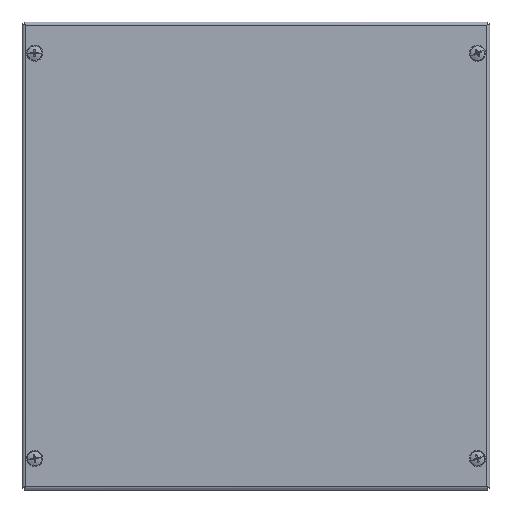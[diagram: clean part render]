
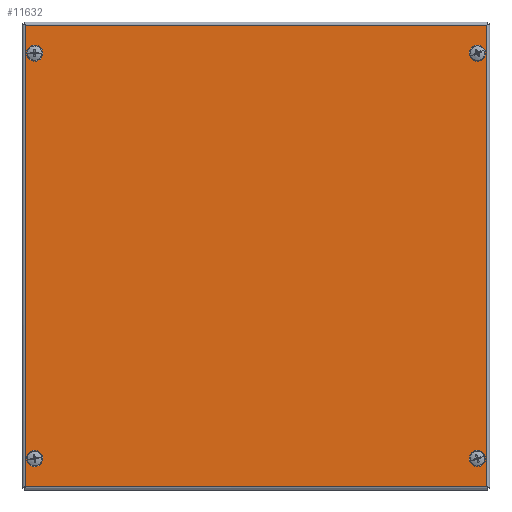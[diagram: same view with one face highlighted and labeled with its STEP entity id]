
A CAD part, top view. The second image highlights one B-rep face of the part: STEP entity #11632.
In plain terms, the highlighted planar face has unit normal (0, 0, 1) as drawn and (0, 0, -1) by its records, which use the part's own axes.
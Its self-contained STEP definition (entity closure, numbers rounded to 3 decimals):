
#152 = ORIENTED_EDGE ( 'NONE', *, *, #803, .T. ) ;
#228 = AXIS2_PLACEMENT_3D ( 'NONE', #5968, #1004, #15415 ) ;
#483 = AXIS2_PLACEMENT_3D ( 'NONE', #8965, #6503, #3982 ) ;
#488 = EDGE_CURVE ( 'NONE', #4682, #8380, #3976, .T. ) ;
#697 = EDGE_CURVE ( 'NONE', #9607, #5213, #14136, .T. ) ;
#725 = CARTESIAN_POINT ( 'NONE',  ( -142., 130., -1.2 ) ) ;
#729 = DIRECTION ( 'NONE',  ( -1., 0., 0. ) ) ;
#764 = ORIENTED_EDGE ( 'NONE', *, *, #5546, .T. ) ;
#803 = EDGE_CURVE ( 'NONE', #5291, #8223, #13394, .T. ) ;
#966 = EDGE_CURVE ( 'NONE', #10117, #7244, #14687, .T. ) ;
#1004 = DIRECTION ( 'NONE',  ( 0., 0., 1. ) ) ;
#1183 = CIRCLE ( 'NONE', #1243, 4. ) ;
#1243 = AXIS2_PLACEMENT_3D ( 'NONE', #7017, #10633, #6901 ) ;
#1373 = CARTESIAN_POINT ( 'NONE',  ( -148.093, 148.063, -1.2 ) ) ;
#1526 = EDGE_LOOP ( 'NONE', ( #8001, #4093 ) ) ;
#1650 = CIRCLE ( 'NONE', #7947, 4. ) ;
#1816 = ORIENTED_EDGE ( 'NONE', *, *, #4756, .T. ) ;
#1873 = CIRCLE ( 'NONE', #2470, 4. ) ;
#2023 = CARTESIAN_POINT ( 'NONE',  ( 148.063, 148.063, -1.2 ) ) ;
#2417 = CARTESIAN_POINT ( 'NONE',  ( -148.063, -148.063, -1.2 ) ) ;
#2432 = EDGE_CURVE ( 'NONE', #8380, #4682, #11846, .T. ) ;
#2460 = VECTOR ( 'NONE', #729, 1000. ) ;
#2466 = ORIENTED_EDGE ( 'NONE', *, *, #966, .T. ) ;
#2470 = AXIS2_PLACEMENT_3D ( 'NONE', #7672, #14845, #4027 ) ;
#2498 = CARTESIAN_POINT ( 'NONE',  ( -146., 130., -1.2 ) ) ;
#2665 = ORIENTED_EDGE ( 'NONE', *, *, #6793, .T. ) ;
#2731 = AXIS2_PLACEMENT_3D ( 'NONE', #8596, #8897, #12356 ) ;
#2866 = VERTEX_POINT ( 'NONE', #5698 ) ;
#2890 = EDGE_CURVE ( 'NONE', #7796, #2866, #1650, .T. ) ;
#2999 = DIRECTION ( 'NONE',  ( 0., -1., 0. ) ) ;
#3346 = VERTEX_POINT ( 'NONE', #12695 ) ;
#3371 = DIRECTION ( 'NONE',  ( 0., 1., 0. ) ) ;
#3403 = LINE ( 'NONE', #5680, #7926 ) ;
#3439 = PLANE ( 'NONE',  #2731 ) ;
#3976 = CIRCLE ( 'NONE', #9125, 4. ) ;
#3982 = DIRECTION ( 'NONE',  ( 1., 0., 0. ) ) ;
#4027 = DIRECTION ( 'NONE',  ( 1., 0., 0. ) ) ;
#4093 = ORIENTED_EDGE ( 'NONE', *, *, #488, .T. ) ;
#4409 = DIRECTION ( 'NONE',  ( 1., 0., 0. ) ) ;
#4490 = ORIENTED_EDGE ( 'NONE', *, *, #5162, .T. ) ;
#4682 = VERTEX_POINT ( 'NONE', #9277 ) ;
#4756 = EDGE_CURVE ( 'NONE', #3346, #7249, #13389, .T. ) ;
#4881 = DIRECTION ( 'NONE',  ( 1., 0., 0. ) ) ;
#4917 = EDGE_CURVE ( 'NONE', #7249, #3346, #14324, .T. ) ;
#5070 = DIRECTION ( 'NONE',  ( 0., 0., 1. ) ) ;
#5144 = EDGE_CURVE ( 'NONE', #2866, #7796, #1183, .T. ) ;
#5162 = EDGE_CURVE ( 'NONE', #7244, #9607, #3403, .T. ) ;
#5213 = VERTEX_POINT ( 'NONE', #2023 ) ;
#5291 = VERTEX_POINT ( 'NONE', #5894 ) ;
#5546 = EDGE_CURVE ( 'NONE', #5213, #10117, #14911, .T. ) ;
#5552 = CARTESIAN_POINT ( 'NONE',  ( 142., 130., -1.2 ) ) ;
#5680 = CARTESIAN_POINT ( 'NONE',  ( -148.063, -148.093, -1.2 ) ) ;
#5698 = CARTESIAN_POINT ( 'NONE',  ( -138., 130., -1.2 ) ) ;
#5894 = CARTESIAN_POINT ( 'NONE',  ( -138., -130., -1.2 ) ) ;
#5968 = CARTESIAN_POINT ( 'NONE',  ( 142., -130., -1.2 ) ) ;
#6028 = AXIS2_PLACEMENT_3D ( 'NONE', #14773, #13469, #14693 ) ;
#6031 = CARTESIAN_POINT ( 'NONE',  ( 148.063, -148.063, -1.2 ) ) ;
#6503 = DIRECTION ( 'NONE',  ( 0., 0., 1. ) ) ;
#6697 = ORIENTED_EDGE ( 'NONE', *, *, #4917, .T. ) ;
#6793 = EDGE_CURVE ( 'NONE', #8223, #5291, #1873, .T. ) ;
#6901 = DIRECTION ( 'NONE',  ( 1., 0., 0. ) ) ;
#7017 = CARTESIAN_POINT ( 'NONE',  ( -142., 130., -1.2 ) ) ;
#7094 = CARTESIAN_POINT ( 'NONE',  ( 138., -130., -1.2 ) ) ;
#7244 = VERTEX_POINT ( 'NONE', #2417 ) ;
#7249 = VERTEX_POINT ( 'NONE', #7094 ) ;
#7275 = EDGE_LOOP ( 'NONE', ( #1816, #6697 ) ) ;
#7571 = CARTESIAN_POINT ( 'NONE',  ( -148.063, 148.063, -1.2 ) ) ;
#7672 = CARTESIAN_POINT ( 'NONE',  ( -142., -130., -1.2 ) ) ;
#7796 = VERTEX_POINT ( 'NONE', #2498 ) ;
#7921 = CARTESIAN_POINT ( 'NONE',  ( 148.093, -148.063, -1.2 ) ) ;
#7926 = VECTOR ( 'NONE', #3371, 1000. ) ;
#7930 = CARTESIAN_POINT ( 'NONE',  ( 148.063, 148.093, -1.2 ) ) ;
#7947 = AXIS2_PLACEMENT_3D ( 'NONE', #725, #10078, #4409 ) ;
#8001 = ORIENTED_EDGE ( 'NONE', *, *, #2432, .T. ) ;
#8034 = ORIENTED_EDGE ( 'NONE', *, *, #5144, .T. ) ;
#8149 = CARTESIAN_POINT ( 'NONE',  ( -146., -130., -1.2 ) ) ;
#8223 = VERTEX_POINT ( 'NONE', #8149 ) ;
#8380 = VERTEX_POINT ( 'NONE', #8771 ) ;
#8526 = FACE_OUTER_BOUND ( 'NONE', #9711, .T. ) ;
#8530 = CARTESIAN_POINT ( 'NONE',  ( 142., -130., -1.2 ) ) ;
#8596 = CARTESIAN_POINT ( 'NONE',  ( 0., 0., -1.2 ) ) ;
#8771 = CARTESIAN_POINT ( 'NONE',  ( 146., 130., -1.2 ) ) ;
#8862 = VECTOR ( 'NONE', #4881, 1000. ) ;
#8897 = DIRECTION ( 'NONE',  ( 0., 0., 1. ) ) ;
#8965 = CARTESIAN_POINT ( 'NONE',  ( -142., -130., -1.2 ) ) ;
#9125 = AXIS2_PLACEMENT_3D ( 'NONE', #5552, #10459, #13990 ) ;
#9277 = CARTESIAN_POINT ( 'NONE',  ( 138., 130., -1.2 ) ) ;
#9607 = VERTEX_POINT ( 'NONE', #7571 ) ;
#9711 = EDGE_LOOP ( 'NONE', ( #4490, #11296, #764, #2466 ) ) ;
#9774 = ORIENTED_EDGE ( 'NONE', *, *, #2890, .T. ) ;
#10078 = DIRECTION ( 'NONE',  ( 0., 0., 1. ) ) ;
#10117 = VERTEX_POINT ( 'NONE', #6031 ) ;
#10459 = DIRECTION ( 'NONE',  ( 0., 0., 1. ) ) ;
#10633 = DIRECTION ( 'NONE',  ( 0., 0., 1. ) ) ;
#11296 = ORIENTED_EDGE ( 'NONE', *, *, #697, .T. ) ;
#11632 = ADVANCED_FACE ( 'NONE', ( #11955, #12330, #14950, #15163, #8526 ), #3439, .F. ) ;
#11713 = VECTOR ( 'NONE', #2999, 1000. ) ;
#11846 = CIRCLE ( 'NONE', #6028, 4. ) ;
#11955 = FACE_BOUND ( 'NONE', #12050, .T. ) ;
#12050 = EDGE_LOOP ( 'NONE', ( #152, #2665 ) ) ;
#12330 = FACE_BOUND ( 'NONE', #7275, .T. ) ;
#12356 = DIRECTION ( 'NONE',  ( 1., 0., 0. ) ) ;
#12695 = CARTESIAN_POINT ( 'NONE',  ( 146., -130., -1.2 ) ) ;
#13389 = CIRCLE ( 'NONE', #228, 4. ) ;
#13394 = CIRCLE ( 'NONE', #483, 4. ) ;
#13434 = DIRECTION ( 'NONE',  ( 1., 0., 0. ) ) ;
#13469 = DIRECTION ( 'NONE',  ( 0., 0., 1. ) ) ;
#13973 = EDGE_LOOP ( 'NONE', ( #8034, #9774 ) ) ;
#13990 = DIRECTION ( 'NONE',  ( 1., 0., 0. ) ) ;
#14136 = LINE ( 'NONE', #1373, #8862 ) ;
#14324 = CIRCLE ( 'NONE', #14745, 4. ) ;
#14687 = LINE ( 'NONE', #7921, #2460 ) ;
#14693 = DIRECTION ( 'NONE',  ( 1., 0., 0. ) ) ;
#14745 = AXIS2_PLACEMENT_3D ( 'NONE', #8530, #5070, #13434 ) ;
#14773 = CARTESIAN_POINT ( 'NONE',  ( 142., 130., -1.2 ) ) ;
#14845 = DIRECTION ( 'NONE',  ( 0., 0., 1. ) ) ;
#14911 = LINE ( 'NONE', #7930, #11713 ) ;
#14950 = FACE_BOUND ( 'NONE', #1526, .T. ) ;
#15163 = FACE_BOUND ( 'NONE', #13973, .T. ) ;
#15415 = DIRECTION ( 'NONE',  ( 1., 0., 0. ) ) ;
